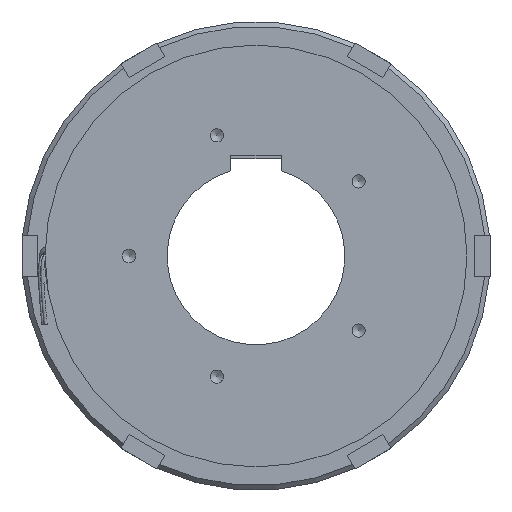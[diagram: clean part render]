
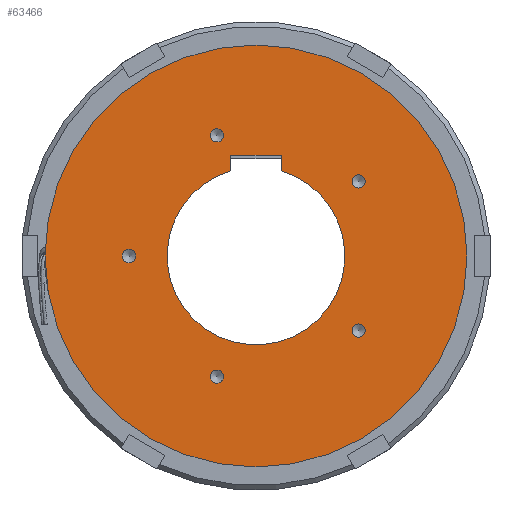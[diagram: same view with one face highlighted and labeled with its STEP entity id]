
A CAD part, left-side view. The second image highlights one B-rep face of the part: STEP entity #63466.
In plain terms, the highlighted planar face has unit normal (-1, 0, 0).
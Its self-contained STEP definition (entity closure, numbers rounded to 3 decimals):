
#308=FACE_BOUND('',#16891,.T.);
#309=FACE_BOUND('',#16892,.T.);
#310=FACE_BOUND('',#16893,.T.);
#311=FACE_BOUND('',#16894,.T.);
#312=FACE_BOUND('',#16895,.T.);
#313=FACE_BOUND('',#16896,.T.);
#6453=CIRCLE('',#69220,56.);
#6884=CIRCLE('',#70024,133.);
#6885=CIRCLE('',#70025,133.);
#6886=CIRCLE('',#70027,4.188);
#6887=CIRCLE('',#70028,4.188);
#6888=CIRCLE('',#70029,4.188);
#6889=CIRCLE('',#70030,4.188);
#6890=CIRCLE('',#70031,4.188);
#6891=CIRCLE('',#70032,4.188);
#6892=CIRCLE('',#70033,4.188);
#6893=CIRCLE('',#70034,4.188);
#6894=CIRCLE('',#70035,4.188);
#6895=CIRCLE('',#70036,4.188);
#13535=FACE_OUTER_BOUND('',#16890,.T.);
#16890=EDGE_LOOP('',(#53542,#53543));
#16891=EDGE_LOOP('',(#53544,#53545,#53546,#53547));
#16892=EDGE_LOOP('',(#53548,#53549));
#16893=EDGE_LOOP('',(#53550,#53551));
#16894=EDGE_LOOP('',(#53552,#53553));
#16895=EDGE_LOOP('',(#53554,#53555));
#16896=EDGE_LOOP('',(#53556,#53557));
#20100=LINE('',#104007,#24099);
#20103=LINE('',#104013,#24102);
#20107=LINE('',#104023,#24106);
#24099=VECTOR('',#84150,10.);
#24102=VECTOR('',#84155,10.);
#24106=VECTOR('',#84167,10.);
#29399=VERTEX_POINT('',#104004);
#29400=VERTEX_POINT('',#104006);
#29402=VERTEX_POINT('',#104012);
#29404=VERTEX_POINT('',#104018);
#30165=VERTEX_POINT('',#106483);
#30166=VERTEX_POINT('',#106485);
#30167=VERTEX_POINT('',#106489);
#30168=VERTEX_POINT('',#106490);
#30169=VERTEX_POINT('',#106493);
#30170=VERTEX_POINT('',#106494);
#30171=VERTEX_POINT('',#106497);
#30172=VERTEX_POINT('',#106498);
#30173=VERTEX_POINT('',#106501);
#30174=VERTEX_POINT('',#106502);
#30175=VERTEX_POINT('',#106505);
#30176=VERTEX_POINT('',#106506);
#37293=EDGE_CURVE('',#29400,#29399,#20100,.T.);
#37296=EDGE_CURVE('',#29402,#29400,#20103,.T.);
#37299=EDGE_CURVE('',#29404,#29402,#6453,.T.);
#37302=EDGE_CURVE('',#29399,#29404,#20107,.T.);
#38415=EDGE_CURVE('',#30165,#30166,#6884,.T.);
#38416=EDGE_CURVE('',#30166,#30165,#6885,.T.);
#38417=EDGE_CURVE('',#30167,#30168,#6886,.T.);
#38418=EDGE_CURVE('',#30168,#30167,#6887,.T.);
#38419=EDGE_CURVE('',#30169,#30170,#6888,.T.);
#38420=EDGE_CURVE('',#30170,#30169,#6889,.T.);
#38421=EDGE_CURVE('',#30171,#30172,#6890,.T.);
#38422=EDGE_CURVE('',#30172,#30171,#6891,.T.);
#38423=EDGE_CURVE('',#30173,#30174,#6892,.T.);
#38424=EDGE_CURVE('',#30174,#30173,#6893,.T.);
#38425=EDGE_CURVE('',#30175,#30176,#6894,.T.);
#38426=EDGE_CURVE('',#30176,#30175,#6895,.T.);
#53542=ORIENTED_EDGE('',*,*,#38416,.F.);
#53543=ORIENTED_EDGE('',*,*,#38415,.F.);
#53544=ORIENTED_EDGE('',*,*,#37293,.T.);
#53545=ORIENTED_EDGE('',*,*,#37302,.T.);
#53546=ORIENTED_EDGE('',*,*,#37299,.T.);
#53547=ORIENTED_EDGE('',*,*,#37296,.T.);
#53548=ORIENTED_EDGE('',*,*,#38417,.T.);
#53549=ORIENTED_EDGE('',*,*,#38418,.T.);
#53550=ORIENTED_EDGE('',*,*,#38419,.T.);
#53551=ORIENTED_EDGE('',*,*,#38420,.T.);
#53552=ORIENTED_EDGE('',*,*,#38421,.T.);
#53553=ORIENTED_EDGE('',*,*,#38422,.T.);
#53554=ORIENTED_EDGE('',*,*,#38423,.T.);
#53555=ORIENTED_EDGE('',*,*,#38424,.T.);
#53556=ORIENTED_EDGE('',*,*,#38425,.T.);
#53557=ORIENTED_EDGE('',*,*,#38426,.T.);
#61293=PLANE('',#70026);
#63466=ADVANCED_FACE('',(#13535,#308,#309,#310,#311,#312,#313),#61293,.T.);
#69220=AXIS2_PLACEMENT_3D('',#104019,#84161,#84162);
#70024=AXIS2_PLACEMENT_3D('',#106486,#86403,#86404);
#70025=AXIS2_PLACEMENT_3D('',#106487,#86405,#86406);
#70026=AXIS2_PLACEMENT_3D('',#106488,#86407,#86408);
#70027=AXIS2_PLACEMENT_3D('',#106491,#86409,#86410);
#70028=AXIS2_PLACEMENT_3D('',#106492,#86411,#86412);
#70029=AXIS2_PLACEMENT_3D('',#106495,#86413,#86414);
#70030=AXIS2_PLACEMENT_3D('',#106496,#86415,#86416);
#70031=AXIS2_PLACEMENT_3D('',#106499,#86417,#86418);
#70032=AXIS2_PLACEMENT_3D('',#106500,#86419,#86420);
#70033=AXIS2_PLACEMENT_3D('',#106503,#86421,#86422);
#70034=AXIS2_PLACEMENT_3D('',#106504,#86423,#86424);
#70035=AXIS2_PLACEMENT_3D('',#106507,#86425,#86426);
#70036=AXIS2_PLACEMENT_3D('',#106508,#86427,#86428);
#84150=DIRECTION('',(0.,-1.,0.));
#84155=DIRECTION('',(0.,0.,1.));
#84161=DIRECTION('center_axis',(1.,0.,0.));
#84162=DIRECTION('ref_axis',(0.,0.,-1.));
#84167=DIRECTION('',(0.,0.,-1.));
#86403=DIRECTION('center_axis',(1.,0.,0.));
#86404=DIRECTION('ref_axis',(0.,0.,-1.));
#86405=DIRECTION('center_axis',(1.,0.,0.));
#86406=DIRECTION('ref_axis',(0.,0.,-1.));
#86407=DIRECTION('center_axis',(-1.,0.,0.));
#86408=DIRECTION('ref_axis',(0.,0.,1.));
#86409=DIRECTION('center_axis',(1.,0.,0.));
#86410=DIRECTION('ref_axis',(0.,0.,1.));
#86411=DIRECTION('center_axis',(1.,0.,0.));
#86412=DIRECTION('ref_axis',(0.,0.,1.));
#86413=DIRECTION('center_axis',(1.,0.,0.));
#86414=DIRECTION('ref_axis',(0.,0.,1.));
#86415=DIRECTION('center_axis',(1.,0.,0.));
#86416=DIRECTION('ref_axis',(0.,0.,1.));
#86417=DIRECTION('center_axis',(1.,0.,0.));
#86418=DIRECTION('ref_axis',(0.,0.,1.));
#86419=DIRECTION('center_axis',(1.,0.,0.));
#86420=DIRECTION('ref_axis',(0.,0.,1.));
#86421=DIRECTION('center_axis',(1.,0.,0.));
#86422=DIRECTION('ref_axis',(0.,0.,1.));
#86423=DIRECTION('center_axis',(1.,0.,0.));
#86424=DIRECTION('ref_axis',(0.,0.,1.));
#86425=DIRECTION('center_axis',(1.,0.,0.));
#86426=DIRECTION('ref_axis',(0.,0.,1.));
#86427=DIRECTION('center_axis',(1.,0.,0.));
#86428=DIRECTION('ref_axis',(0.,0.,1.));
#104004=CARTESIAN_POINT('',(-30.5,-16.,63.4));
#104006=CARTESIAN_POINT('',(-30.5,16.,63.4));
#104007=CARTESIAN_POINT('',(-30.5,74.5,63.4));
#104012=CARTESIAN_POINT('',(-30.5,16.,53.666));
#104013=CARTESIAN_POINT('',(-30.5,16.,24.3));
#104018=CARTESIAN_POINT('',(-30.5,-16.,53.666));
#104019=CARTESIAN_POINT('Origin',(-30.5,0.,0.));
#104023=CARTESIAN_POINT('',(-30.5,-16.,31.7));
#106483=CARTESIAN_POINT('',(-30.5,-133.,0.));
#106485=CARTESIAN_POINT('',(-30.5,133.,0.));
#106486=CARTESIAN_POINT('Origin',(-30.5,0.,0.));
#106487=CARTESIAN_POINT('Origin',(-30.5,0.,0.));
#106488=CARTESIAN_POINT('Origin',(-30.5,133.,0.));
#106489=CARTESIAN_POINT('',(-30.5,-64.721,51.211));
#106490=CARTESIAN_POINT('',(-30.5,-64.721,42.835));
#106491=CARTESIAN_POINT('Origin',(-30.5,-64.721,47.023));
#106492=CARTESIAN_POINT('Origin',(-30.5,-64.721,47.023));
#106493=CARTESIAN_POINT('',(-30.5,24.721,-71.897));
#106494=CARTESIAN_POINT('',(-30.5,24.721,-80.273));
#106495=CARTESIAN_POINT('Origin',(-30.5,24.721,-76.085));
#106496=CARTESIAN_POINT('Origin',(-30.5,24.721,-76.085));
#106497=CARTESIAN_POINT('',(-30.5,80.,4.188));
#106498=CARTESIAN_POINT('',(-30.5,80.,-4.188));
#106499=CARTESIAN_POINT('Origin',(-30.5,80.,0.));
#106500=CARTESIAN_POINT('Origin',(-30.5,80.,0.));
#106501=CARTESIAN_POINT('',(-30.5,-64.721,-42.835));
#106502=CARTESIAN_POINT('',(-30.5,-64.721,-51.211));
#106503=CARTESIAN_POINT('Origin',(-30.5,-64.721,-47.023));
#106504=CARTESIAN_POINT('Origin',(-30.5,-64.721,-47.023));
#106505=CARTESIAN_POINT('',(-30.5,24.721,80.273));
#106506=CARTESIAN_POINT('',(-30.5,24.721,71.897));
#106507=CARTESIAN_POINT('Origin',(-30.5,24.721,76.085));
#106508=CARTESIAN_POINT('Origin',(-30.5,24.721,76.085));
